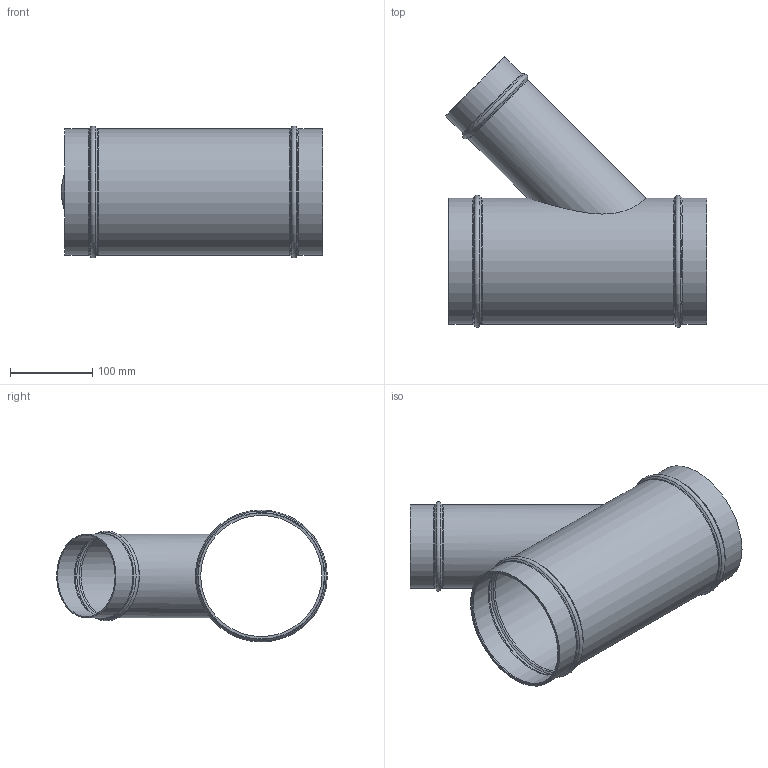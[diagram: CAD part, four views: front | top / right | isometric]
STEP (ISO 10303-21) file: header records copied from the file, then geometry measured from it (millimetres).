
FILE_DESCRIPTION(/* description */ (''),/* implementation_level */ '2;1');
FILE_NAME(/* name */ '9812_stp.stp',/* time_stamp */ '2025-06-20T11:37:25+08:00',/* author */ (''),/* organization */ (''),/* preprocessor_version */ 'ST-DEVELOPER v14',/* originating_system */ 'SIEMENS PLM Software NX 8.0',/* authorisation */ '');
FILE_SCHEMA (('AP203_CONFIGURATION_CONTROLLED_3D_DESIGN_OF_MECHANICAL_PARTS_AND_ASSEMBLIES_MIM_LF { 1 0 10303 403 2 1 2}'));
Length unit declared in the file: millimetre
Products named in the file (1): Admi0BECFFFE4xso
Bounding box: 316.55 x 328.04 x 159.98 mm (x, y, z)
Volume: 309663.6 mm3; surface area: 414932.7 mm2
Topology: 1 solids, 1 shells, 47 faces, 96 edges, 54 vertices
Faces by surface type: torus 18, cylinder 12, cone 12, plane 5
Full cylindrical faces by diameter (mm): 98.6 x2, 101.6 x2, 147 x2, 150 x3, 153 x3
Entity records: 1166 total; most frequent: CARTESIAN_POINT 262, DIRECTION 188, FACE_BOUND 96, EDGE_LOOP 96, ORIENTED_EDGE 96, AXIS2_PLACEMENT_3D 94, VERTEX_POINT 48, EDGE_CURVE 48
